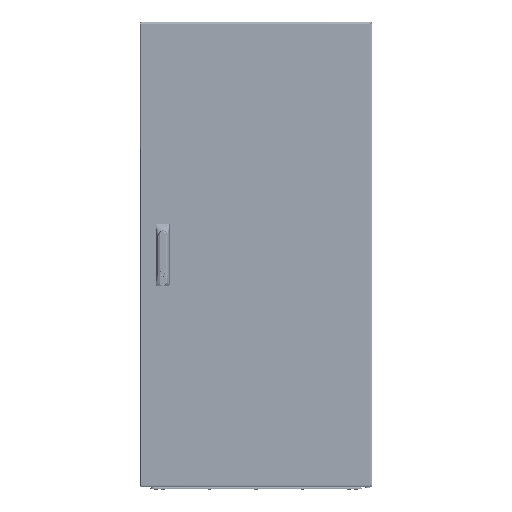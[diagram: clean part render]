
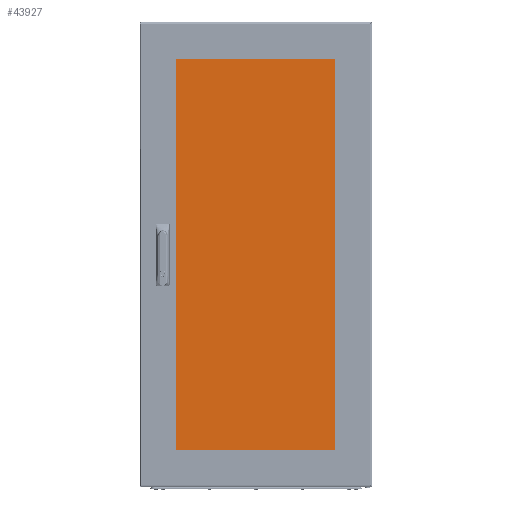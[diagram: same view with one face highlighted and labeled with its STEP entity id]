
A CAD part, top view. The second image highlights one B-rep face of the part: STEP entity #43927.
In plain terms, the highlighted planar face has unit normal (0, 0, 1).
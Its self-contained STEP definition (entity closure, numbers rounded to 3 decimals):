
#1667 = CARTESIAN_POINT ( 'NONE',  ( 215., 514., 2. ) ) ;
#5821 = EDGE_CURVE ( 'NONE', #71459, #109999, #167849, .T. ) ;
#6591 = CIRCLE ( 'NONE', #71195, 1. ) ;
#13771 = CARTESIAN_POINT ( 'NONE',  ( 0., 0., 2. ) ) ;
#19191 = EDGE_CURVE ( 'NONE', #47580, #223811, #6591, .T. ) ;
#26115 = EDGE_CURVE ( 'NONE', #102250, #119008, #166271, .T. ) ;
#26286 = DIRECTION ( 'NONE',  ( 0., 0., 1. ) ) ;
#31129 = CARTESIAN_POINT ( 'NONE',  ( -214., -514., 2. ) ) ;
#42895 = EDGE_CURVE ( 'NONE', #164252, #173194, #130828, .T. ) ;
#43927 = ADVANCED_FACE ( 'NONE', ( #128664 ), #50465, .T. ) ;
#44016 = DIRECTION ( 'NONE',  ( 1., 0., 0. ) ) ;
#44039 = VECTOR ( 'NONE', #102568, 1000. ) ;
#44417 = CARTESIAN_POINT ( 'NONE',  ( 214., 515., 2. ) ) ;
#47580 = VERTEX_POINT ( 'NONE', #239628 ) ;
#50465 = PLANE ( 'NONE',  #155519 ) ;
#55031 = DIRECTION ( 'NONE',  ( 0., 0., 1. ) ) ;
#55090 = DIRECTION ( 'NONE',  ( 0., 0., 1. ) ) ;
#62384 = AXIS2_PLACEMENT_3D ( 'NONE', #69068, #130805, #209137 ) ;
#62777 = ORIENTED_EDGE ( 'NONE', *, *, #170610, .T. ) ;
#64305 = DIRECTION ( 'NONE',  ( 1., 0., 0. ) ) ;
#67207 = LINE ( 'NONE', #180863, #44039 ) ;
#68166 = DIRECTION ( 'NONE',  ( 0., 0., 1. ) ) ;
#69068 = CARTESIAN_POINT ( 'NONE',  ( 214., -514., 2. ) ) ;
#70549 = VECTOR ( 'NONE', #64305, 1000. ) ;
#71195 = AXIS2_PLACEMENT_3D ( 'NONE', #31129, #55090, #230589 ) ;
#71459 = VERTEX_POINT ( 'NONE', #1667 ) ;
#72409 = CARTESIAN_POINT ( 'NONE',  ( -214., 515., 2. ) ) ;
#73435 = AXIS2_PLACEMENT_3D ( 'NONE', #139957, #26286, #44016 ) ;
#77576 = EDGE_CURVE ( 'NONE', #223811, #164252, #217117, .T. ) ;
#83438 = EDGE_CURVE ( 'NONE', #173194, #71459, #130015, .T. ) ;
#89591 = DIRECTION ( 'NONE',  ( 1., 0., 0. ) ) ;
#90616 = CARTESIAN_POINT ( 'NONE',  ( 214., -515., 2. ) ) ;
#102250 = VERTEX_POINT ( 'NONE', #72409 ) ;
#102568 = DIRECTION ( 'NONE',  ( -1., 0., 0. ) ) ;
#105062 = CARTESIAN_POINT ( 'NONE',  ( -215., 514., 2. ) ) ;
#107220 = VECTOR ( 'NONE', #111661, 1000. ) ;
#109999 = VERTEX_POINT ( 'NONE', #44417 ) ;
#111086 = DIRECTION ( 'NONE',  ( 0., 1., 0. ) ) ;
#111661 = DIRECTION ( 'NONE',  ( 0., -1., 0. ) ) ;
#119008 = VERTEX_POINT ( 'NONE', #105062 ) ;
#123787 = ORIENTED_EDGE ( 'NONE', *, *, #209795, .T. ) ;
#128664 = FACE_OUTER_BOUND ( 'NONE', #177925, .T. ) ;
#130015 = LINE ( 'NONE', #207097, #152666 ) ;
#130805 = DIRECTION ( 'NONE',  ( 0., 0., 1. ) ) ;
#130828 = CIRCLE ( 'NONE', #62384, 1. ) ;
#135532 = ORIENTED_EDGE ( 'NONE', *, *, #42895, .T. ) ;
#138129 = CARTESIAN_POINT ( 'NONE',  ( 215., -514., 2. ) ) ;
#139957 = CARTESIAN_POINT ( 'NONE',  ( -214., 514., 2. ) ) ;
#143793 = CARTESIAN_POINT ( 'NONE',  ( 215., -515., 2. ) ) ;
#152666 = VECTOR ( 'NONE', #111086, 1000. ) ;
#155519 = AXIS2_PLACEMENT_3D ( 'NONE', #13771, #68166, #89591 ) ;
#158301 = ORIENTED_EDGE ( 'NONE', *, *, #83438, .T. ) ;
#161493 = ORIENTED_EDGE ( 'NONE', *, *, #19191, .T. ) ;
#164252 = VERTEX_POINT ( 'NONE', #90616 ) ;
#166271 = CIRCLE ( 'NONE', #73435, 1. ) ;
#167849 = CIRCLE ( 'NONE', #200114, 1. ) ;
#170610 = EDGE_CURVE ( 'NONE', #109999, #102250, #67207, .T. ) ;
#173194 = VERTEX_POINT ( 'NONE', #138129 ) ;
#177925 = EDGE_LOOP ( 'NONE', ( #123787, #161493, #179380, #135532, #158301, #239913, #62777, #197577 ) ) ;
#179380 = ORIENTED_EDGE ( 'NONE', *, *, #77576, .T. ) ;
#180863 = CARTESIAN_POINT ( 'NONE',  ( 215., 515., 2. ) ) ;
#187471 = LINE ( 'NONE', #203945, #107220 ) ;
#197577 = ORIENTED_EDGE ( 'NONE', *, *, #26115, .T. ) ;
#200114 = AXIS2_PLACEMENT_3D ( 'NONE', #228039, #55031, #209076 ) ;
#203945 = CARTESIAN_POINT ( 'NONE',  ( -215., -515., 2. ) ) ;
#207097 = CARTESIAN_POINT ( 'NONE',  ( 215., -515., 2. ) ) ;
#209076 = DIRECTION ( 'NONE',  ( 1., 0., 0. ) ) ;
#209137 = DIRECTION ( 'NONE',  ( 1., 0., 0. ) ) ;
#209795 = EDGE_CURVE ( 'NONE', #119008, #47580, #187471, .T. ) ;
#217117 = LINE ( 'NONE', #143793, #70549 ) ;
#223811 = VERTEX_POINT ( 'NONE', #231395 ) ;
#228039 = CARTESIAN_POINT ( 'NONE',  ( 214., 514., 2. ) ) ;
#230589 = DIRECTION ( 'NONE',  ( 1., 0., 0. ) ) ;
#231395 = CARTESIAN_POINT ( 'NONE',  ( -214., -515., 2. ) ) ;
#239628 = CARTESIAN_POINT ( 'NONE',  ( -215., -514., 2. ) ) ;
#239913 = ORIENTED_EDGE ( 'NONE', *, *, #5821, .T. ) ;
